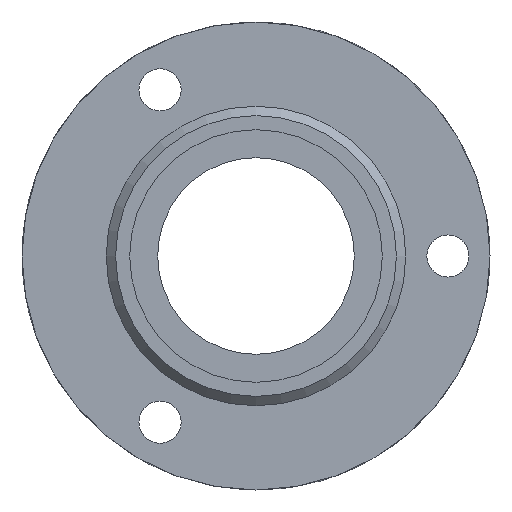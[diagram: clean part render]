
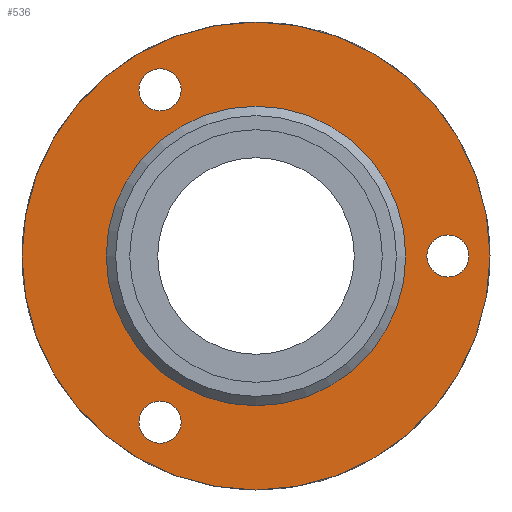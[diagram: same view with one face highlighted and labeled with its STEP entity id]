
A CAD part, left-side view. The second image highlights one B-rep face of the part: STEP entity #536.
In plain terms, the highlighted planar face has unit normal (-1, 0, 0).
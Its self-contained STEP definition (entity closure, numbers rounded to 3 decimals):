
#36=FACE_BOUND('',#138,.T.);
#37=FACE_BOUND('',#139,.T.);
#38=FACE_BOUND('',#140,.T.);
#39=FACE_BOUND('',#141,.T.);
#46=CIRCLE('',#573,2.25);
#51=CIRCLE('',#583,2.25);
#52=CIRCLE('',#585,25.);
#65=CIRCLE('',#607,2.25);
#69=CIRCLE('',#613,16.);
#102=FACE_OUTER_BOUND('',#137,.T.);
#137=EDGE_LOOP('',(#480));
#138=EDGE_LOOP('',(#481));
#139=EDGE_LOOP('',(#482));
#140=EDGE_LOOP('',(#483));
#141=EDGE_LOOP('',(#484));
#233=VERTEX_POINT('',#830);
#245=VERTEX_POINT('',#867);
#246=VERTEX_POINT('',#871);
#260=VERTEX_POINT('',#922);
#264=VERTEX_POINT('',#934);
#287=EDGE_CURVE('',#233,#233,#46,.T.);
#303=EDGE_CURVE('',#245,#245,#51,.T.);
#304=EDGE_CURVE('',#246,#246,#52,.T.);
#329=EDGE_CURVE('',#260,#260,#65,.T.);
#335=EDGE_CURVE('',#264,#264,#69,.T.);
#480=ORIENTED_EDGE('',*,*,#304,.T.);
#481=ORIENTED_EDGE('',*,*,#287,.T.);
#482=ORIENTED_EDGE('',*,*,#303,.T.);
#483=ORIENTED_EDGE('',*,*,#329,.T.);
#484=ORIENTED_EDGE('',*,*,#335,.F.);
#508=PLANE('',#621);
#536=ADVANCED_FACE('',(#102,#36,#37,#38,#39),#508,.T.);
#573=AXIS2_PLACEMENT_3D('',#832,#658,#659);
#583=AXIS2_PLACEMENT_3D('',#869,#687,#688);
#585=AXIS2_PLACEMENT_3D('',#872,#691,#692);
#607=AXIS2_PLACEMENT_3D('',#924,#745,#746);
#613=AXIS2_PLACEMENT_3D('',#936,#759,#760);
#621=AXIS2_PLACEMENT_3D('',#950,#777,#778);
#658=DIRECTION('center_axis',(1.,0.,0.));
#659=DIRECTION('ref_axis',(0.,0.866,0.5));
#687=DIRECTION('center_axis',(1.,0.,0.));
#688=DIRECTION('ref_axis',(0.,-0.866,0.5));
#691=DIRECTION('center_axis',(-1.,0.,0.));
#692=DIRECTION('ref_axis',(0.,0.,1.));
#745=DIRECTION('center_axis',(1.,0.,0.));
#746=DIRECTION('ref_axis',(0.,0.,-1.));
#759=DIRECTION('center_axis',(-1.,0.,0.));
#760=DIRECTION('ref_axis',(0.,0.,1.));
#777=DIRECTION('center_axis',(-1.,0.,0.));
#778=DIRECTION('ref_axis',(0.,0.,1.));
#830=CARTESIAN_POINT('',(-8.,8.301,-18.879));
#832=CARTESIAN_POINT('Origin',(-8.,10.25,-17.754));
#867=CARTESIAN_POINT('',(-8.,12.199,16.629));
#869=CARTESIAN_POINT('Origin',(-8.,10.25,17.754));
#871=CARTESIAN_POINT('',(-8.,-25.,0.));
#872=CARTESIAN_POINT('Origin',(-8.,0.,
0.));
#922=CARTESIAN_POINT('',(-8.,-20.5,2.25));
#924=CARTESIAN_POINT('Origin',(-8.,-20.5,0.));
#934=CARTESIAN_POINT('',(-8.,-16.,0.));
#936=CARTESIAN_POINT('Origin',(-8.,0.,0.));
#950=CARTESIAN_POINT('Origin',(-8.,16.,0.));
